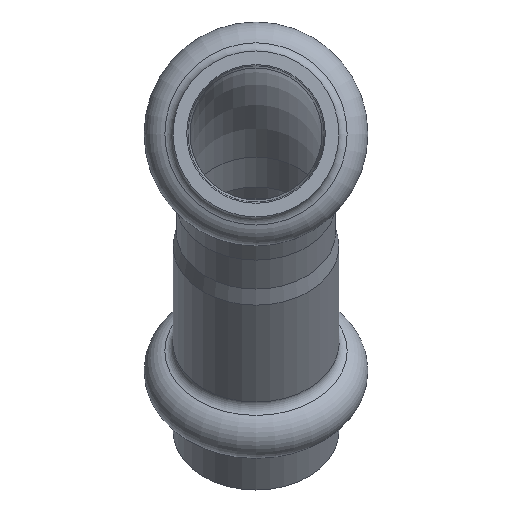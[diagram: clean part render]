
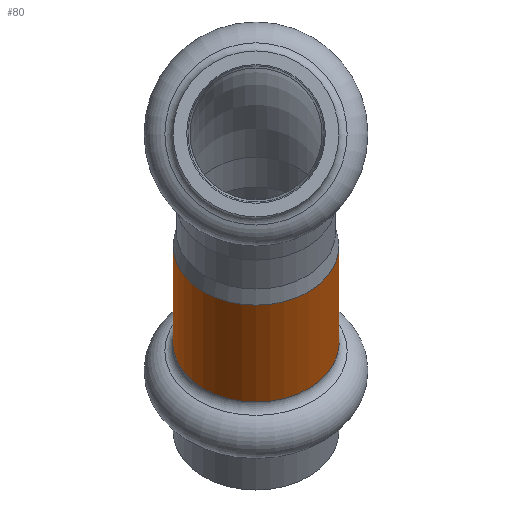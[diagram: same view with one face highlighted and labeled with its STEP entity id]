
A CAD part, front view. The second image highlights one B-rep face of the part: STEP entity #80.
In plain terms, the highlighted cylindrical face has radius 7.3 mm (diameter 14.6 mm), a full revolution.
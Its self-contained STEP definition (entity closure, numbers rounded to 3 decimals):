
#80=ADVANCED_FACE('',(#330,#332),#334,.T.);
#330=FACE_OUTER_BOUND('',#331,.T.);
#331=EDGE_LOOP('',(#459));
#332=FACE_OUTER_BOUND('',#333,.T.);
#333=EDGE_LOOP('',(#460));
#334=CYLINDRICAL_SURFACE('',#335,7.3);
#335=AXIS2_PLACEMENT_3D('',#336,#337,#338);
#336=CARTESIAN_POINT('',(0.,55.416,-18.416));
#337=DIRECTION('',(0.,-0.707,0.707));
#338=DIRECTION('',(0.,-0.707,-0.707));
#459=ORIENTED_EDGE('',*,*,#509,.T.);
#460=ORIENTED_EDGE('',*,*,#511,.F.);
#509=EDGE_CURVE('',#583,#583,#584,.T.);
#511=EDGE_CURVE('',#587,#587,#588,.T.);
#583=VERTEX_POINT('',#763);
#584=CIRCLE('',#764,7.3);
#587=VERTEX_POINT('',#773);
#588=CIRCLE('',#774,7.3);
#763=CARTESIAN_POINT('',(0.,50.254,-23.578));
#764=AXIS2_PLACEMENT_3D('',#765,#766,#767);
#765=CARTESIAN_POINT('',(0.,55.416,-18.416));
#766=DIRECTION('',(0.,-0.707,0.707));
#767=DIRECTION('',(0.,-0.707,-0.707));
#773=CARTESIAN_POINT('',(0.,41.738,-15.061));
#774=AXIS2_PLACEMENT_3D('',#775,#776,#777);
#775=CARTESIAN_POINT('',(0.,46.899,-9.899));
#776=DIRECTION('',(0.,-0.707,0.707));
#777=DIRECTION('',(0.,-0.707,-0.707));
